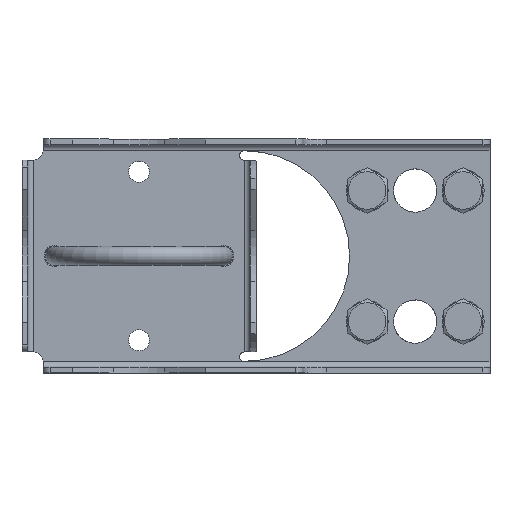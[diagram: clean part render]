
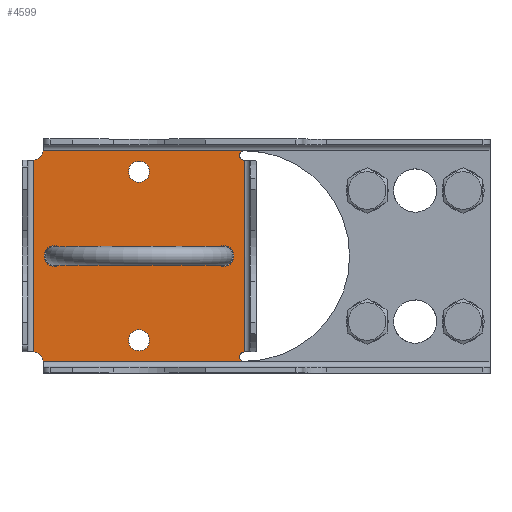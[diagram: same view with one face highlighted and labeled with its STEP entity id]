
A CAD part, top view. The second image highlights one B-rep face of the part: STEP entity #4599.
In plain terms, the highlighted planar face has unit normal (0, 0, 1).
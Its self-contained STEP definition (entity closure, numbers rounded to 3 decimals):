
#4599=ADVANCED_FACE('',(#8670,#8672,#8674,#8676,#8678),#8680,.T.);
#8670=FACE_BOUND('',#8671,.T.);
#8671=EDGE_LOOP('',(#10787,#10788,#10789,#10790,#10791,#10792,#10793,#10794,#10795,
#10796,#10797,#10798,#10799,#10800));
#8672=FACE_BOUND('',#8673,.T.);
#8673=EDGE_LOOP('',(#10801));
#8674=FACE_BOUND('',#8675,.T.);
#8675=EDGE_LOOP('',(#10802));
#8676=FACE_BOUND('',#8677,.T.);
#8677=EDGE_LOOP('',(#10803));
#8678=FACE_BOUND('',#8679,.T.);
#8679=EDGE_LOOP('',(#10804));
#8680=PLANE('',#8681);
#8681=AXIS2_PLACEMENT_3D('',#8682,#8683,#8684);
#8682=CARTESIAN_POINT('',(1154.5,367.,59.5));
#8683=DIRECTION('',(0.,0.,1.));
#8684=DIRECTION('',(1.,0.,0.));
#10787=ORIENTED_EDGE('',*,*,#11759,.F.);
#10788=ORIENTED_EDGE('',*,*,#11788,.F.);
#10789=ORIENTED_EDGE('',*,*,#11835,.T.);
#10790=ORIENTED_EDGE('',*,*,#11826,.F.);
#10791=ORIENTED_EDGE('',*,*,#11822,.F.);
#10792=ORIENTED_EDGE('',*,*,#11814,.T.);
#10793=ORIENTED_EDGE('',*,*,#11828,.T.);
#10794=ORIENTED_EDGE('',*,*,#11795,.F.);
#10795=ORIENTED_EDGE('',*,*,#11821,.F.);
#10796=ORIENTED_EDGE('',*,*,#11792,.F.);
#10797=ORIENTED_EDGE('',*,*,#11829,.T.);
#10798=ORIENTED_EDGE('',*,*,#11782,.T.);
#10799=ORIENTED_EDGE('',*,*,#11753,.F.);
#10800=ORIENTED_EDGE('',*,*,#11864,.T.);
#10801=ORIENTED_EDGE('',*,*,#11659,.T.);
#10802=ORIENTED_EDGE('',*,*,#11665,.T.);
#10803=ORIENTED_EDGE('',*,*,#11663,.T.);
#10804=ORIENTED_EDGE('',*,*,#11661,.T.);
#11659=EDGE_CURVE('',#13509,#13509,#13510,.T.);
#11661=EDGE_CURVE('',#13513,#13513,#13514,.T.);
#11663=EDGE_CURVE('',#13517,#13517,#13518,.T.);
#11665=EDGE_CURVE('',#13521,#13521,#13522,.T.);
#11753=EDGE_CURVE('',#13667,#13483,#13669,.T.);
#11759=EDGE_CURVE('',#13679,#13680,#13681,.T.);
#11782=EDGE_CURVE('',#13718,#13483,#13719,.T.);
#11788=EDGE_CURVE('',#13726,#13679,#13728,.T.);
#11792=EDGE_CURVE('',#13732,#13734,#13735,.T.);
#11795=EDGE_CURVE('',#13737,#13740,#13741,.T.);
#11814=EDGE_CURVE('',#13776,#13774,#13777,.T.);
#11821=EDGE_CURVE('',#13734,#13737,#13784,.T.);
#11822=EDGE_CURVE('',#13776,#13785,#13786,.T.);
#11826=EDGE_CURVE('',#13785,#13790,#13792,.T.);
#11828=EDGE_CURVE('',#13774,#13740,#13794,.T.);
#11829=EDGE_CURVE('',#13732,#13718,#13795,.T.);
#11835=EDGE_CURVE('',#13726,#13790,#13801,.T.);
#11864=EDGE_CURVE('',#13667,#13680,#13842,.T.);
#13483=VERTEX_POINT('',#19544);
#13509=VERTEX_POINT('',#19603);
#13510=CIRCLE('',#19604,4.5);
#13513=VERTEX_POINT('',#19613);
#13514=CIRCLE('',#19614,4.5);
#13517=VERTEX_POINT('',#19623);
#13518=CIRCLE('',#19624,4.5);
#13521=VERTEX_POINT('',#19633);
#13522=CIRCLE('',#19634,4.5);
#13667=VERTEX_POINT('',#19987);
#13669=CIRCLE('',#19991,4.);
#13679=VERTEX_POINT('',#20016);
#13680=VERTEX_POINT('',#20017);
#13681=CIRCLE('',#20018,4.);
#13718=VERTEX_POINT('',#20109);
#13719=LINE('',#20110,#20111);
#13726=VERTEX_POINT('',#20130);
#13728=LINE('',#20134,#20135);
#13732=VERTEX_POINT('',#20144);
#13734=VERTEX_POINT('',#20148);
#13735=LINE('',#20149,#20150);
#13737=VERTEX_POINT('',#20156);
#13740=VERTEX_POINT('',#20185);
#13741=LINE('',#20186,#20187);
#13774=VERTEX_POINT('',#20342);
#13776=VERTEX_POINT('',#20429);
#13777=LINE('',#20430,#20431);
#13784=LINE('',#20491,#20492);
#13785=VERTEX_POINT('',#20494);
#13786=LINE('',#20495,#20496);
#13790=VERTEX_POINT('',#20506);
#13792=LINE('',#20510,#20511);
#13794=LINE('',#20516,#20517);
#13795=CIRCLE('',#20519,2.);
#13801=CIRCLE('',#20541,2.);
#13842=LINE('',#20648,#20649);
#19544=CARTESIAN_POINT('',(1158.5,371.,59.5));
#19603=CARTESIAN_POINT('',(1235.5,330.5,59.5));
#19604=AXIS2_PLACEMENT_3D('',#19605,#19606,#19607);
#19605=CARTESIAN_POINT('',(1235.5,326.,59.5));
#19606=DIRECTION('',(-0.,-0.,-1.));
#19607=DIRECTION('',(0.,1.,0.));
#19613=CARTESIAN_POINT('',(1195.,362.,59.5));
#19614=AXIS2_PLACEMENT_3D('',#19615,#19616,#19617);
#19615=CARTESIAN_POINT('',(1199.5,362.,59.5));
#19616=DIRECTION('',(-0.,-0.,-1.));
#19617=DIRECTION('',(-1.,0.,-0.));
#19623=CARTESIAN_POINT('',(1163.5,321.5,59.5));
#19624=AXIS2_PLACEMENT_3D('',#19625,#19626,#19627);
#19625=CARTESIAN_POINT('',(1163.5,326.,59.5));
#19626=DIRECTION('',(-0.,-0.,-1.));
#19627=DIRECTION('',(0.,-1.,0.));
#19633=CARTESIAN_POINT('',(1195.,290.,59.5));
#19634=AXIS2_PLACEMENT_3D('',#19635,#19636,#19637);
#19635=CARTESIAN_POINT('',(1199.5,290.,59.5));
#19636=DIRECTION('',(-0.,-0.,-1.));
#19637=DIRECTION('',(-1.,0.,-0.));
#19987=CARTESIAN_POINT('',(1154.5,367.,59.5));
#19991=AXIS2_PLACEMENT_3D('',#19992,#19993,#19994);
#19992=CARTESIAN_POINT('',(1154.5,371.,59.5));
#19993=DIRECTION('',(0.,0.,1.));
#19994=DIRECTION('',(0.,-1.,0.));
#20016=CARTESIAN_POINT('',(1158.5,281.,59.5));
#20017=CARTESIAN_POINT('',(1154.5,285.,59.5));
#20018=AXIS2_PLACEMENT_3D('',#20019,#20020,#20021);
#20019=CARTESIAN_POINT('',(1154.5,281.,59.5));
#20020=DIRECTION('',(0.,0.,1.));
#20021=DIRECTION('',(1.,0.,0.));
#20109=CARTESIAN_POINT('',(1244.5,371.,59.5));
#20110=CARTESIAN_POINT('',(1244.5,371.,59.5));
#20111=VECTOR('',#20112,1.);
#20112=DIRECTION('',(-1.,0.,0.));
#20130=CARTESIAN_POINT('',(1244.5,281.,59.5));
#20134=CARTESIAN_POINT('',(1244.5,281.,59.5));
#20135=VECTOR('',#20136,1.);
#20136=DIRECTION('',(-1.,0.,0.));
#20144=CARTESIAN_POINT('',(1244.5,367.,59.5));
#20148=CARTESIAN_POINT('',(1248.83,367.,59.5));
#20149=CARTESIAN_POINT('',(1244.5,367.,59.5));
#20150=VECTOR('',#20151,1.);
#20151=DIRECTION('',(1.,0.,0.));
#20156=CARTESIAN_POINT('',(1248.83,366.767,59.5));
#20185=CARTESIAN_POINT('',(1244.5,366.767,59.5));
#20186=CARTESIAN_POINT('',(1248.83,366.767,59.5));
#20187=VECTOR('',#20188,1.);
#20188=DIRECTION('',(-1.,0.,0.));
#20342=CARTESIAN_POINT('',(1244.5,285.067,59.5));
#20429=CARTESIAN_POINT('',(1248.83,285.067,59.5));
#20430=CARTESIAN_POINT('',(1248.83,285.067,59.5));
#20431=VECTOR('',#20432,1.);
#20432=DIRECTION('',(-1.,0.,0.));
#20491=CARTESIAN_POINT('',(1248.83,367.,59.5));
#20492=VECTOR('',#20493,1.);
#20493=DIRECTION('',(0.,-1.,0.));
#20494=CARTESIAN_POINT('',(1248.83,285.,59.5));
#20495=CARTESIAN_POINT('',(1248.83,285.067,59.5));
#20496=VECTOR('',#20497,1.);
#20497=DIRECTION('',(0.,-1.,0.));
#20506=CARTESIAN_POINT('',(1244.5,285.,59.5));
#20510=CARTESIAN_POINT('',(1248.83,285.,59.5));
#20511=VECTOR('',#20512,1.);
#20512=DIRECTION('',(-1.,0.,0.));
#20516=CARTESIAN_POINT('',(1244.5,285.067,59.5));
#20517=VECTOR('',#20518,1.);
#20518=DIRECTION('',(0.,1.,0.));
#20519=AXIS2_PLACEMENT_3D('',#20520,#20521,#20522);
#20520=CARTESIAN_POINT('',(1244.5,369.,59.5));
#20521=DIRECTION('',(-0.,0.,-1.));
#20522=DIRECTION('',(0.,-1.,0.));
#20541=AXIS2_PLACEMENT_3D('',#20542,#20543,#20544);
#20542=CARTESIAN_POINT('',(1244.5,283.,59.5));
#20543=DIRECTION('',(-0.,0.,-1.));
#20544=DIRECTION('',(0.,-1.,0.));
#20648=CARTESIAN_POINT('',(1154.5,367.,59.5));
#20649=VECTOR('',#20650,1.);
#20650=DIRECTION('',(0.,-1.,0.));
